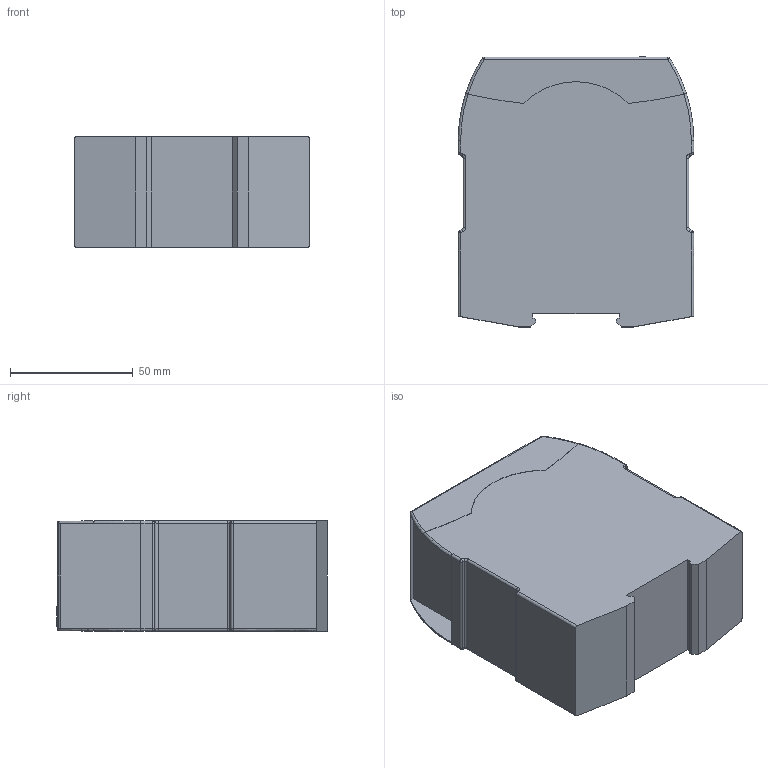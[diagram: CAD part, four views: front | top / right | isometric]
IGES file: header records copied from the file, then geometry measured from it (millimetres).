
Start section:  PTC IGES file: 2022963
Global section: file name: 2022963; native system: Creo Parametric by Parametric Technology Corporation; preprocessor: 2015280; author: merz; organization: Unknown; date: 20160624.082759; units: millimetre
Bounding box: 96 x 110.2 x 45 mm (x, y, z)
Surface area: 39678.7 mm2 (no closed solid volume)
Topology: 0 solids, 0 shells, 142 faces, 692 edges, 692 vertices
Faces by surface type: bspline 71, revolution 71
